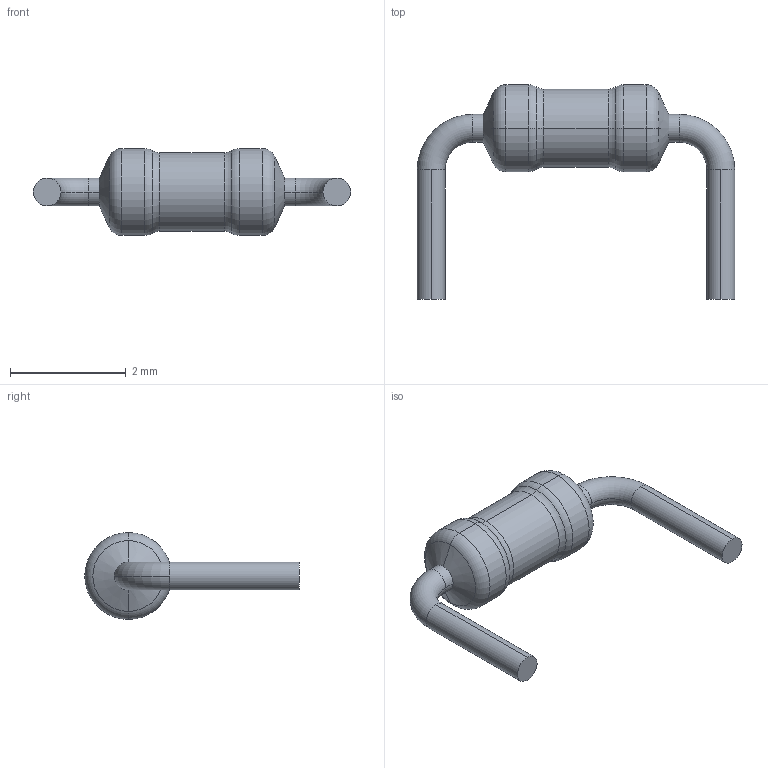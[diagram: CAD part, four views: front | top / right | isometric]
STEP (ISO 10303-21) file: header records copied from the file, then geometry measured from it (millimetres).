
FILE_DESCRIPTION (( 'STEP AP214' ), '1' );
FILE_NAME ('RESM3,2X1,5.STEP', '2011-11-21T07:39:33', ( 'vpeshkov' ), ( 'ELCORT' ), 'SwSTEP 2.0', 'SolidWorks 2009', '' );
FILE_SCHEMA (( 'AUTOMOTIVE_DESIGN' ));
Length unit declared in the file: millimetre
Products named in the file (1): RESM3,2X1,5
Bounding box: 5.48 x 3.7 x 1.5 mm (x, y, z)
Volume: 6 mm3; surface area: 26.5 mm2
Topology: 1 solids, 1 shells, 36 faces, 78 edges, 44 vertices
Faces by surface type: torus 16, cylinder 14, cone 4, plane 2
Entity records: 1178 total; most frequent: DIRECTION 212, CARTESIAN_POINT 159, ORIENTED_EDGE 156, AXIS2_PLACEMENT_3D 97, EDGE_CURVE 78, CIRCLE 60, VERTEX_POINT 44, ADVANCED_FACE 36
